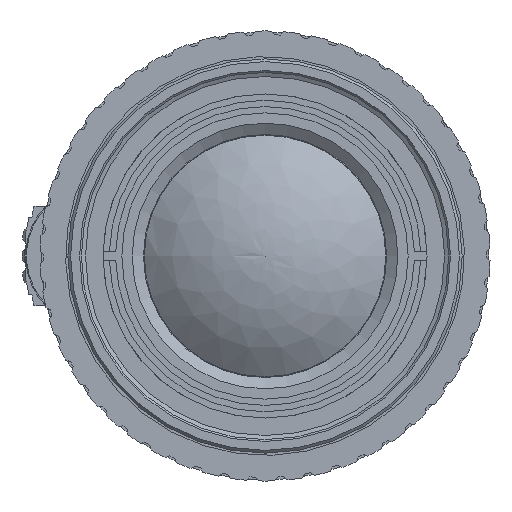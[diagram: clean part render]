
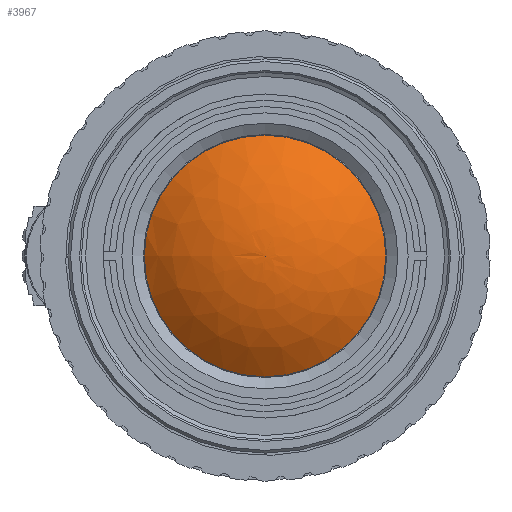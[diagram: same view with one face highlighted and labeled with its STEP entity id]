
A CAD part, left-side view. The second image highlights one B-rep face of the part: STEP entity #3967.
In plain terms, the highlighted face is a revolution surface.
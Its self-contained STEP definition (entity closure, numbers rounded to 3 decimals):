
#3397=SURFACE_OF_REVOLUTION('',#3401,#3399);
#3399=AXIS1_PLACEMENT('',#15646,#13150);
#3401=B_SPLINE_CURVE_WITH_KNOTS('',3,(#15641,#15642,#15643,#15644,#15645),
.UNSPECIFIED.,.F.,.F.,(4,1,4),(0.,0.521,1.),.UNSPECIFIED.);
#3423=VERTEX_LOOP('',#9703);
#3471=FACE_BOUND('',#3423,.T.);
#3967=ADVANCED_FACE('',(#3471,#4544),#3397,.F.);
#4544=FACE_OUTER_BOUND('',#5026,.T.);
#5026=EDGE_LOOP('',(#7417));
#7417=ORIENTED_EDGE('',*,*,#10494,.T.);
#9702=VERTEX_POINT('',#15638);
#9703=VERTEX_POINT('',#15640);
#10494=EDGE_CURVE('',#9702,#9702,#11552,.T.);
#11552=CIRCLE('',#11982,13.413);
#11982=AXIS2_PLACEMENT_3D('',#15637,#13146,#13147);
#13146=DIRECTION('',(-1.,0.,0.));
#13147=DIRECTION('',(0.,0.,1.));
#13150=DIRECTION('',(-1.,0.,0.));
#15637=CARTESIAN_POINT('',(4.8,0.,0.));
#15638=CARTESIAN_POINT('',(4.8,0.,13.413));
#15640=CARTESIAN_POINT('',(0.,0.,0.));
#15641=CARTESIAN_POINT('',(0.,0.,0.));
#15642=CARTESIAN_POINT('',(0.,2.332,0.));
#15643=CARTESIAN_POINT('',(0.734,6.803,0.));
#15644=CARTESIAN_POINT('',(3.033,11.274,0.));
#15645=CARTESIAN_POINT('',(4.8,13.413,0.));
#15646=CARTESIAN_POINT('',(0.,0.,0.));
